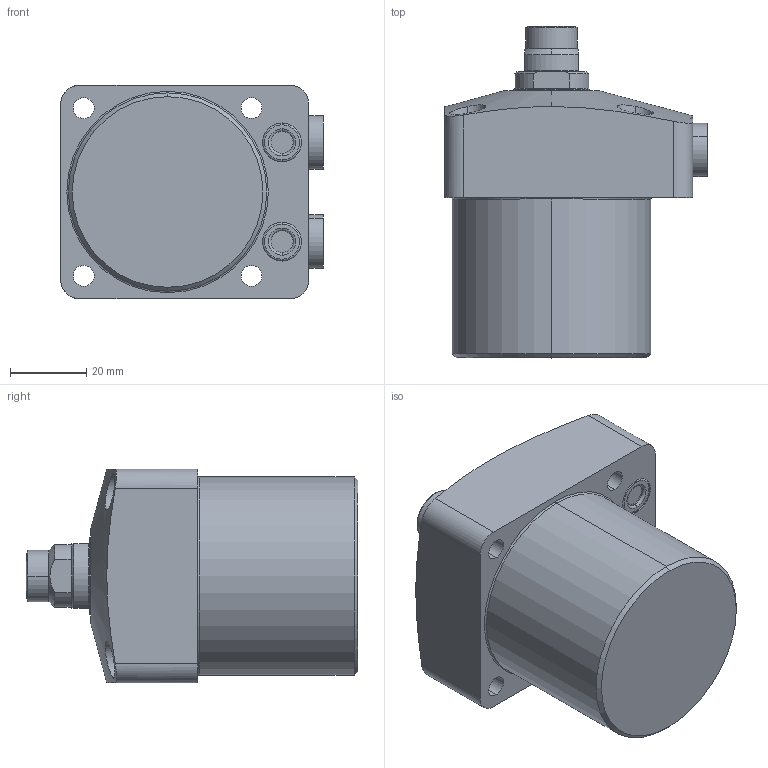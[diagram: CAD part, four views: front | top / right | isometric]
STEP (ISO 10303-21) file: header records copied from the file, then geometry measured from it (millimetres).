
FILE_DESCRIPTION(/* description */ (''),/* implementation_level */ '2;1');
FILE_NAME(/* name */ 'FSC10-M.stp',/* time_stamp */ '2025-03-10T14:14:43+08:00',/* author */ (''),/* organization */ (''),/* preprocessor_version */ 'ST-DEVELOPER v16.7',/* originating_system */ 'SIEMENS PLM Software NX 12.0',/* authorisation */ '');
FILE_SCHEMA (('AUTOMOTIVE_DESIGN { 1 0 10303 214 3 1 1 1 }'));
Length unit declared in the file: millimetre
Products named in the file (9): XLC-M12SP_pad; XLC-M12SP_pin; XLC-M12SP_contactbolt; XLC-M12_o-ring; FSC010-01; FSC010-02; FSC010-04; XLC-M12_XLC-M12SP; FSC10_stp
Assembly tree (9 placements, depth 3):
  FSC10_stp
    FSC010-04  x2
    FSC010-02
    FSC010-01
    XLC-M12_XLC-M12SP
      XLC-M12_o-ring
      XLC-M12SP_contactbolt
      XLC-M12SP_pin
      XLC-M12SP_pad
Bounding box: 68.8 x 87 x 56 mm (x, y, z)
Volume: 178833.7 mm3; surface area: 28794.9 mm2
Topology: 8 solids, 10 shells, 252 faces, 564 edges, 349 vertices
Faces by surface type: cylinder 99, plane 64, cone 42, torus 41, sphere 6
Entity records: 7215 total; most frequent: CARTESIAN_POINT 1641, DIRECTION 1234, ORIENTED_EDGE 1044, AXIS2_PLACEMENT_3D 533, EDGE_CURVE 522, VERTEX_POINT 323, CIRCLE 291, EDGE_LOOP 271
